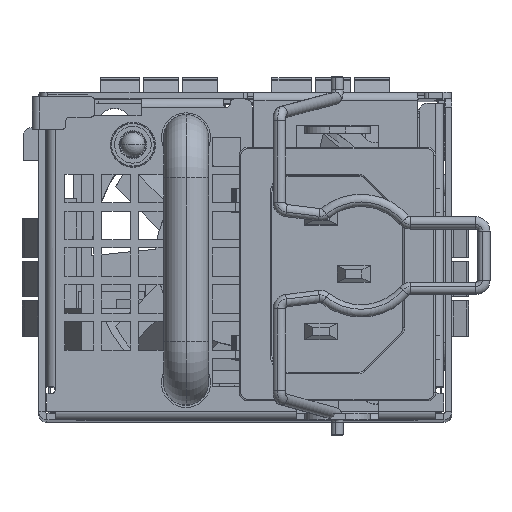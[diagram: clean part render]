
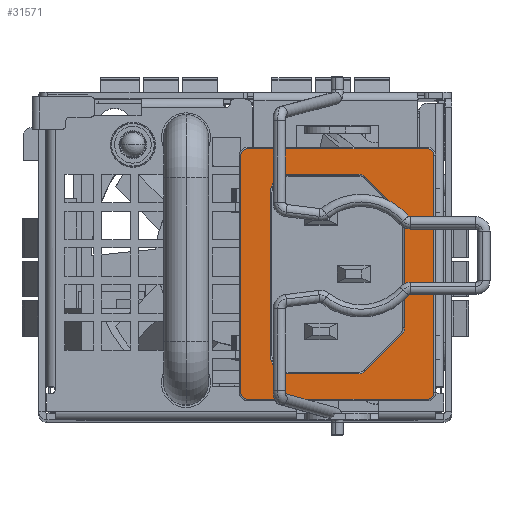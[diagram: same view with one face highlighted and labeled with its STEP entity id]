
A CAD part, top view. The second image highlights one B-rep face of the part: STEP entity #31571.
In plain terms, the highlighted planar face has unit normal (0, 0, 1).
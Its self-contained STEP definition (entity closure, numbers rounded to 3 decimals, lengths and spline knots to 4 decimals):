
#28661=CARTESIAN_POINT('',(0.876,1.2717,
3.9764));
#28662=DIRECTION('',(0.,0.,-1.));
#28663=DIRECTION('',(0.,1.,0.));
#28664=AXIS2_PLACEMENT_3D('',#28661,#28662,#28663);
#28666=CARTESIAN_POINT('',(0.876,0.1299,
3.9764));
#28667=DIRECTION('',(0.,0.,-1.));
#28668=DIRECTION('',(1.,0.,0.));
#28669=AXIS2_PLACEMENT_3D('',#28666,#28667,#28668);
#28671=CARTESIAN_POINT('',(0.0098,0.1299,
3.9764));
#28672=DIRECTION('',(0.,0.,-1.));
#28673=DIRECTION('',(0.,-1.,0.));
#28674=AXIS2_PLACEMENT_3D('',#28671,#28672,#28673);
#28676=CARTESIAN_POINT('',(0.0098,1.2717,
3.9764));
#28677=DIRECTION('',(0.,0.,-1.));
#28678=DIRECTION('',(-1.,0.,0.));
#28679=AXIS2_PLACEMENT_3D('',#28676,#28677,#28678);
#28681=CARTESIAN_POINT('',(0.7185,0.4415,
3.9764));
#28682=DIRECTION('',(0.,0.,1.));
#28683=DIRECTION('',(0.707,-0.707,0.));
#28684=AXIS2_PLACEMENT_3D('',#28681,#28682,#28683);
#28686=CARTESIAN_POINT('',(0.7185,0.9601,
3.9764));
#28687=DIRECTION('',(0.,0.,1.));
#28688=DIRECTION('',(1.,0.,0.));
#28689=AXIS2_PLACEMENT_3D('',#28686,#28687,#28688);
#28691=DIRECTION('',(-0.707,0.707,0.));
#28692=VECTOR('',#28691,0.2458);
#28693=CARTESIAN_POINT('',(0.7519,0.9935,
3.9764));
#28694=LINE('',#28693,#28692);
#28695=CARTESIAN_POINT('',(0.5447,1.1339,
3.9764));
#28696=DIRECTION('',(0.,0.,1.));
#28697=DIRECTION('',(0.707,0.707,0.));
#28698=AXIS2_PLACEMENT_3D('',#28695,#28696,#28697);
#28700=CARTESIAN_POINT('',(0.2067,1.0945,
3.9764));
#28701=DIRECTION('',(0.,0.,1.));
#28702=DIRECTION('',(0.,1.,0.));
#28703=AXIS2_PLACEMENT_3D('',#28700,#28701,#28702);
#28705=CARTESIAN_POINT('',(0.2067,0.3071,
3.9764));
#28706=DIRECTION('',(0.,0.,1.));
#28707=DIRECTION('',(-1.,0.,0.));
#28708=AXIS2_PLACEMENT_3D('',#28705,#28706,#28707);
#28710=CARTESIAN_POINT('',(0.5447,0.2677,
3.9764));
#28711=DIRECTION('',(0.,0.,1.));
#28712=DIRECTION('',(0.,-1.,0.));
#28713=AXIS2_PLACEMENT_3D('',#28710,#28711,#28712);
#28715=DIRECTION('',(0.707,0.707,0.));
#28716=VECTOR('',#28715,0.2458);
#28717=CARTESIAN_POINT('',(0.5781,0.2343,
3.9764));
#28718=LINE('',#28717,#28716);
#28719=DIRECTION('',(0.,1.,0.));
#28720=VECTOR('',#28719,1.1417);
#28721=CARTESIAN_POINT('',(0.9075,0.1299,
3.9764));
#28722=LINE('',#28721,#28720);
#28750=DIRECTION('',(1.,0.,0.));
#28751=VECTOR('',#28750,0.8661);
#28752=CARTESIAN_POINT('',(0.0098,0.0984,
3.9764));
#28753=LINE('',#28752,#28751);
#28781=DIRECTION('',(0.,-1.,0.));
#28782=VECTOR('',#28781,1.1417);
#28783=CARTESIAN_POINT('',(-0.0217,1.2717,
3.9764));
#28784=LINE('',#28783,#28782);
#28812=DIRECTION('',(-1.,0.,0.));
#28813=VECTOR('',#28812,0.8661);
#28814=CARTESIAN_POINT('',(0.876,1.3031,
3.9764));
#28815=LINE('',#28814,#28813);
#28854=DIRECTION('',(-1.,0.,0.));
#28855=VECTOR('',#28854,0.338);
#28856=CARTESIAN_POINT('',(0.5447,0.2205,
3.9764));
#28857=LINE('',#28856,#28855);
#28877=DIRECTION('',(0.,1.,0.));
#28878=VECTOR('',#28877,0.7874);
#28879=CARTESIAN_POINT('',(0.1201,0.3071,
3.9764));
#28880=LINE('',#28879,#28878);
#28900=DIRECTION('',(1.,0.,0.));
#28901=VECTOR('',#28900,0.338);
#28902=CARTESIAN_POINT('',(0.2067,1.1811,
3.9764));
#28903=LINE('',#28902,#28901);
#28942=DIRECTION('',(0.,-1.,0.));
#28943=VECTOR('',#28942,0.5186);
#28944=CARTESIAN_POINT('',(0.7657,0.9601,
3.9764));
#28945=LINE('',#28944,#28943);
#30736=CARTESIAN_POINT('',(0.876,1.3031,
3.9764));
#30737=CARTESIAN_POINT('',(0.9075,1.2717,
3.9764));
#30738=VERTEX_POINT('',#30736);
#30739=VERTEX_POINT('',#30737);
#30740=CARTESIAN_POINT('',(0.9075,0.1299,
3.9764));
#30741=VERTEX_POINT('',#30740);
#30742=CARTESIAN_POINT('',(0.876,0.0984,
3.9764));
#30743=VERTEX_POINT('',#30742);
#30744=CARTESIAN_POINT('',(0.0098,0.0984,
3.9764));
#30745=VERTEX_POINT('',#30744);
#30746=CARTESIAN_POINT('',(-0.0217,0.1299,
3.9764));
#30747=VERTEX_POINT('',#30746);
#30748=CARTESIAN_POINT('',(-0.0217,1.2717,
3.9764));
#30749=VERTEX_POINT('',#30748);
#30750=CARTESIAN_POINT('',(0.0098,1.3031,
3.9764));
#30751=VERTEX_POINT('',#30750);
#30752=CARTESIAN_POINT('',(0.7519,0.4081,
3.9764));
#30753=CARTESIAN_POINT('',(0.7657,0.4415,
3.9764));
#30754=VERTEX_POINT('',#30752);
#30755=VERTEX_POINT('',#30753);
#30756=CARTESIAN_POINT('',(0.7657,0.9601,
3.9764));
#30757=VERTEX_POINT('',#30756);
#30758=CARTESIAN_POINT('',(0.7519,0.9935,
3.9764));
#30759=VERTEX_POINT('',#30758);
#30760=CARTESIAN_POINT('',(0.5781,1.1673,
3.9764));
#30761=VERTEX_POINT('',#30760);
#30762=CARTESIAN_POINT('',(0.5447,1.1811,
3.9764));
#30763=VERTEX_POINT('',#30762);
#30764=CARTESIAN_POINT('',(0.2067,1.1811,
3.9764));
#30765=VERTEX_POINT('',#30764);
#30766=CARTESIAN_POINT('',(0.1201,1.0945,
3.9764));
#30767=VERTEX_POINT('',#30766);
#30768=CARTESIAN_POINT('',(0.1201,0.3071,
3.9764));
#30769=VERTEX_POINT('',#30768);
#30770=CARTESIAN_POINT('',(0.2067,0.2205,
3.9764));
#30771=VERTEX_POINT('',#30770);
#30772=CARTESIAN_POINT('',(0.5447,0.2205,
3.9764));
#30773=VERTEX_POINT('',#30772);
#30774=CARTESIAN_POINT('',(0.5781,0.2343,
3.9764));
#30775=VERTEX_POINT('',#30774);
#31523=CARTESIAN_POINT('',(0.4429,0.7008,
3.9764));
#31524=DIRECTION('',(0.,0.,1.));
#31525=DIRECTION('',(0.,-1.,0.));
#31526=AXIS2_PLACEMENT_3D('',#31523,#31524,#31525);
#31527=PLANE('',#31526);
#31528=ORIENTED_EDGE('',*,*,#31506,.T.);
#31530=ORIENTED_EDGE('',*,*,#31529,.F.);
#31532=ORIENTED_EDGE('',*,*,#31531,.T.);
#31534=ORIENTED_EDGE('',*,*,#31533,.F.);
#31536=ORIENTED_EDGE('',*,*,#31535,.T.);
#31538=ORIENTED_EDGE('',*,*,#31537,.F.);
#31540=ORIENTED_EDGE('',*,*,#31539,.T.);
#31542=ORIENTED_EDGE('',*,*,#31541,.F.);
#31543=EDGE_LOOP('',(#31528,#31530,#31532,#31534,#31536,#31538,#31540,#31542));
#31544=FACE_OUTER_BOUND('',#31543,.F.);
#31546=ORIENTED_EDGE('',*,*,#31545,.T.);
#31548=ORIENTED_EDGE('',*,*,#31547,.F.);
#31550=ORIENTED_EDGE('',*,*,#31549,.T.);
#31552=ORIENTED_EDGE('',*,*,#31551,.T.);
#31554=ORIENTED_EDGE('',*,*,#31553,.T.);
#31556=ORIENTED_EDGE('',*,*,#31555,.F.);
#31558=ORIENTED_EDGE('',*,*,#31557,.T.);
#31560=ORIENTED_EDGE('',*,*,#31559,.F.);
#31562=ORIENTED_EDGE('',*,*,#31561,.T.);
#31564=ORIENTED_EDGE('',*,*,#31563,.F.);
#31566=ORIENTED_EDGE('',*,*,#31565,.T.);
#31568=ORIENTED_EDGE('',*,*,#31567,.T.);
#31569=EDGE_LOOP('',(#31546,#31548,#31550,#31552,#31554,#31556,#31558,#31560,
#31562,#31564,#31566,#31568));
#31570=FACE_BOUND('',#31569,.F.);
#31571=ADVANCED_FACE('',(#31544,#31570),#31527,.T.);
#28665=CIRCLE('',#28664,0.0315);
#28670=CIRCLE('',#28669,0.0315);
#28675=CIRCLE('',#28674,0.0315);
#28680=CIRCLE('',#28679,0.0315);
#28685=CIRCLE('',#28684,0.0472);
#28690=CIRCLE('',#28689,0.0472);
#28699=CIRCLE('',#28698,0.0472);
#28704=CIRCLE('',#28703,0.0866);
#28709=CIRCLE('',#28708,0.0866);
#28714=CIRCLE('',#28713,0.0472);
#31506=EDGE_CURVE('',#30738,#30739,#28665,.T.);
#31529=EDGE_CURVE('',#30741,#30739,#28722,.T.);
#31531=EDGE_CURVE('',#30741,#30743,#28670,.T.);
#31533=EDGE_CURVE('',#30745,#30743,#28753,.T.);
#31535=EDGE_CURVE('',#30745,#30747,#28675,.T.);
#31537=EDGE_CURVE('',#30749,#30747,#28784,.T.);
#31539=EDGE_CURVE('',#30749,#30751,#28680,.T.);
#31541=EDGE_CURVE('',#30738,#30751,#28815,.T.);
#31545=EDGE_CURVE('',#30754,#30755,#28685,.T.);
#31547=EDGE_CURVE('',#30757,#30755,#28945,.T.);
#31549=EDGE_CURVE('',#30757,#30759,#28690,.T.);
#31551=EDGE_CURVE('',#30759,#30761,#28694,.T.);
#31553=EDGE_CURVE('',#30761,#30763,#28699,.T.);
#31555=EDGE_CURVE('',#30765,#30763,#28903,.T.);
#31557=EDGE_CURVE('',#30765,#30767,#28704,.T.);
#31559=EDGE_CURVE('',#30769,#30767,#28880,.T.);
#31561=EDGE_CURVE('',#30769,#30771,#28709,.T.);
#31563=EDGE_CURVE('',#30773,#30771,#28857,.T.);
#31565=EDGE_CURVE('',#30773,#30775,#28714,.T.);
#31567=EDGE_CURVE('',#30775,#30754,#28718,.T.);
